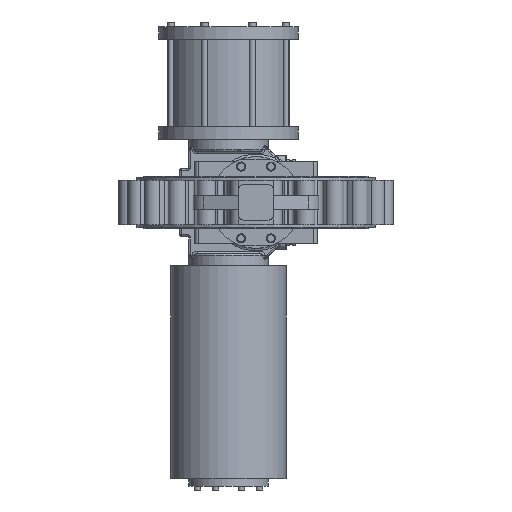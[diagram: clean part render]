
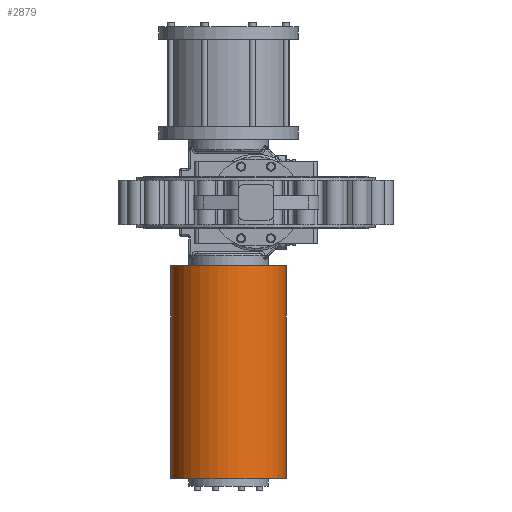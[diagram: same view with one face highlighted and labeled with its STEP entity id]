
A CAD part, front view. The second image highlights one B-rep face of the part: STEP entity #2879.
In plain terms, the highlighted cylindrical face has radius 188.5 mm (diameter 377 mm), a partial arc.
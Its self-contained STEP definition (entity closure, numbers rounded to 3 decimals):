
#114 = DIRECTION ( 'NONE',  ( 0., 0., -1. ) ) ;
#1105 = CIRCLE ( 'NONE', #25383, 188.5 ) ;
#1985 = CIRCLE ( 'NONE', #37088, 188.5 ) ;
#2879 = ADVANCED_FACE ( 'NONE', ( #12180 ), #8394, .T. ) ;
#4480 = EDGE_CURVE ( 'NONE', #11762, #24713, #1105, .T. ) ;
#5146 = ORIENTED_EDGE ( 'NONE', *, *, #9078, .T. ) ;
#8394 = CYLINDRICAL_SURFACE ( 'NONE', #34201, 188.5 ) ;
#9078 = EDGE_CURVE ( 'NONE', #13632, #11320, #1985, .T. ) ;
#9175 = VECTOR ( 'NONE', #9864, 1000. ) ;
#9864 = DIRECTION ( 'NONE',  ( 1., 0., 0. ) ) ;
#11148 = ORIENTED_EDGE ( 'NONE', *, *, #35102, .F. ) ;
#11320 = VERTEX_POINT ( 'NONE', #22434 ) ;
#11762 = VERTEX_POINT ( 'NONE', #32603 ) ;
#11984 = DIRECTION ( 'NONE',  ( 0., 0., -1. ) ) ;
#12180 = FACE_OUTER_BOUND ( 'NONE', #12933, .T. ) ;
#12523 = CARTESIAN_POINT ( 'NONE',  ( 903., 0., 0. ) ) ;
#12680 = LINE ( 'NONE', #30825, #9175 ) ;
#12933 = EDGE_LOOP ( 'NONE', ( #11148, #5146, #14318, #23101 ) ) ;
#13632 = VERTEX_POINT ( 'NONE', #25908 ) ;
#14318 = ORIENTED_EDGE ( 'NONE', *, *, #16392, .T. ) ;
#16261 = DIRECTION ( 'NONE',  ( 1., 0., 0. ) ) ;
#16392 = EDGE_CURVE ( 'NONE', #11320, #24713, #12680, .T. ) ;
#20551 = LINE ( 'NONE', #26176, #28137 ) ;
#22276 = CARTESIAN_POINT ( 'NONE',  ( 207., 0., 0. ) ) ;
#22434 = CARTESIAN_POINT ( 'NONE',  ( 207., 0., -188.5 ) ) ;
#23101 = ORIENTED_EDGE ( 'NONE', *, *, #4480, .F. ) ;
#24713 = VERTEX_POINT ( 'NONE', #36846 ) ;
#25383 = AXIS2_PLACEMENT_3D ( 'NONE', #12523, #36901, #114 ) ;
#25908 = CARTESIAN_POINT ( 'NONE',  ( 207., 0., 188.5 ) ) ;
#26176 = CARTESIAN_POINT ( 'NONE',  ( 0., 0., 188.5 ) ) ;
#28137 = VECTOR ( 'NONE', #38349, 1000. ) ;
#30143 = CARTESIAN_POINT ( 'NONE',  ( 0., 0., 0. ) ) ;
#30825 = CARTESIAN_POINT ( 'NONE',  ( 0., 0., -188.5 ) ) ;
#32603 = CARTESIAN_POINT ( 'NONE',  ( 903., 0., 188.5 ) ) ;
#33647 = DIRECTION ( 'NONE',  ( 0., 0., -1. ) ) ;
#34201 = AXIS2_PLACEMENT_3D ( 'NONE', #30143, #39329, #11984 ) ;
#35102 = EDGE_CURVE ( 'NONE', #13632, #11762, #20551, .T. ) ;
#36846 = CARTESIAN_POINT ( 'NONE',  ( 903., 0., -188.5 ) ) ;
#36901 = DIRECTION ( 'NONE',  ( 1., 0., 0. ) ) ;
#37088 = AXIS2_PLACEMENT_3D ( 'NONE', #22276, #16261, #33647 ) ;
#38349 = DIRECTION ( 'NONE',  ( 1., 0., 0. ) ) ;
#39329 = DIRECTION ( 'NONE',  ( 1., 0., 0. ) ) ;
